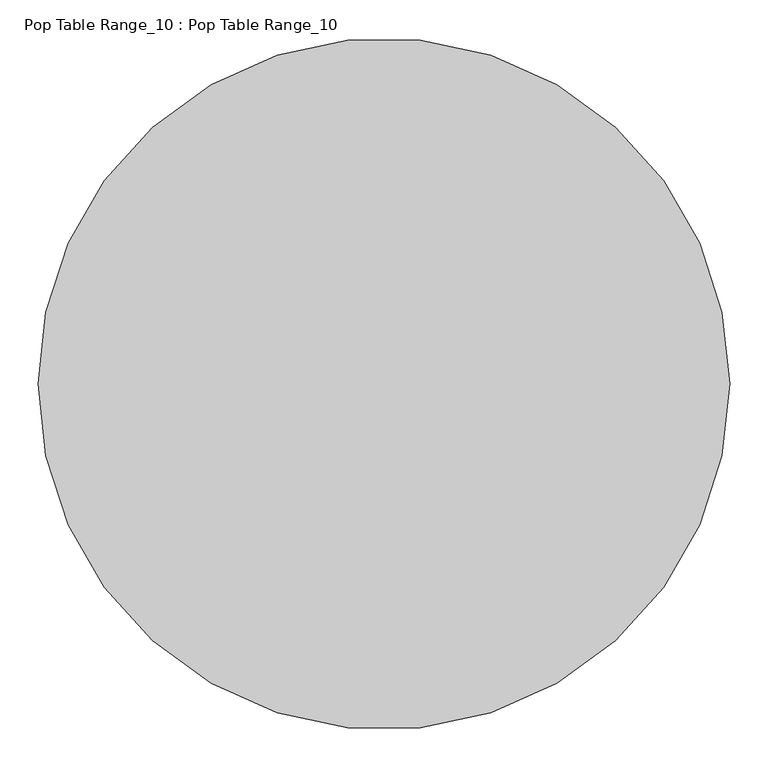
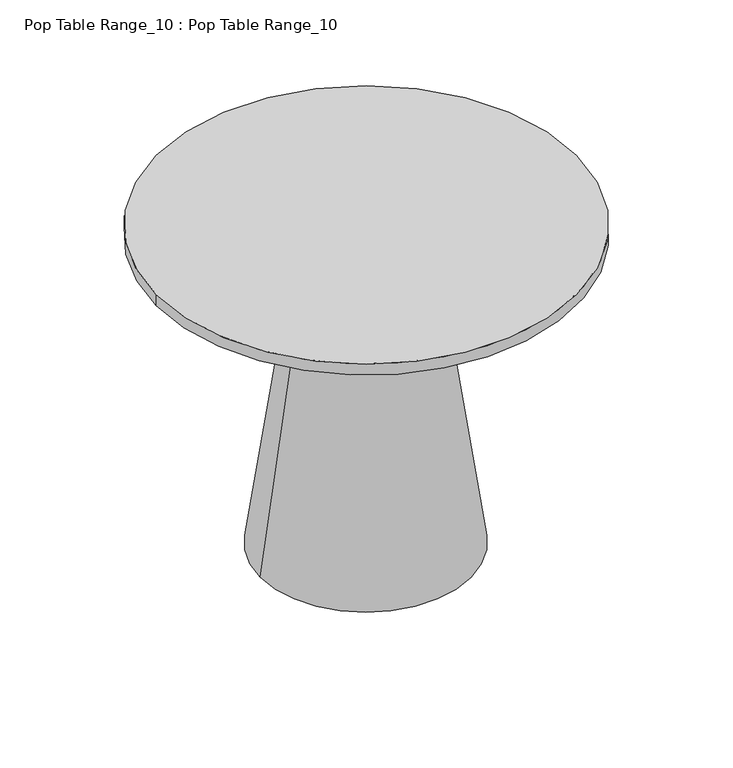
"""IFC4 building model written with IfcOpenShell, lengths in millimetres: proxy geometry, Pop Table Range_10 : Pop Table Range_10."""

import ifcopenshell
import ifcopenshell.guid

model = None  # the IFC model being written
_history = None  # IfcOwnerHistory: only IFC2X3 demands one
_inside = {}  # id of a spatial element -> (the spatial element, [elements in it])
_under = {}  # id of a project, library or spatial element -> (it, [spatial elements below it])
_declared = {}  # id of a project -> (the project, [libraries it declares])
_typed = {}  # id of a type object -> (the type object, [elements of that type])
_made_of = {}  # id of a material, layer set ... -> (it, [elements and type objects made of it])


def new_model(schema):
    """Start an empty IFC model of exactly this schema.

    Asked for "IFC4X3", IfcOpenShell would pick the latest addendum, in which some entities
    have other attributes; the version numbers below select the first issue.
    IFC2X3 requires an IfcOwnerHistory on every rooted entity: one is made here for all.
    """
    global model, _history
    if schema == "IFC4X3":
        model = ifcopenshell.file(schema_version=(4, 3, 0, 0))
    else:
        model = ifcopenshell.file(schema=schema)
    _inside.clear()
    _under.clear()
    _declared.clear()
    _typed.clear()
    _made_of.clear()
    _history = None
    if model.schema == "IFC2X3":
        org = make("IfcOrganization", Name="unknown")
        user = make(
            "IfcPersonAndOrganization",
            ThePerson=make("IfcPerson", FamilyName="unknown"),
            TheOrganization=org,
        )
        app = make(
            "IfcApplication",
            ApplicationDeveloper=org,
            Version="unknown",
            ApplicationFullName="unknown",
            ApplicationIdentifier="unknown",
        )
        _history = make(
            "IfcOwnerHistory",
            OwningUser=user,
            OwningApplication=app,
            ChangeAction="ADDED",
            CreationDate=0,
        )
    return model


def make(cls, **values):
    """One entity of the class cls with the attributes given. An attribute that is None is left unset."""
    return model.create_entity(
        cls, **{name: value for name, value in values.items() if value is not None}
    )


def rooted(cls, **values):
    """An entity with a GlobalId (a new one), such as an element, a storey or a relation."""
    return make(cls, GlobalId=ifcopenshell.guid.new(), OwnerHistory=_history, **values)


def si_unit(unit_type, name, prefix=None):
    """IfcSIUnit, for example si_unit("LENGTHUNIT", "METRE", prefix="MILLI")."""
    return make("IfcSIUnit", UnitType=unit_type, Prefix=prefix, Name=name)


def assignment(units):
    """IfcUnitAssignment: the units of a project."""
    return None if units is None else make("IfcUnitAssignment", Units=units)


def point(xyz):
    """IfcCartesianPoint."""
    return None if xyz is None else make("IfcCartesianPoint", Coordinates=xyz)


def direction(xyz):
    """IfcDirection."""
    return None if xyz is None else make("IfcDirection", DirectionRatios=xyz)


def frame(location, z_axis=None, x_axis=None):
    """IfcAxis2Placement3D, a coordinate frame: its origin and axes. An axis left out is left unset."""
    return make(
        "IfcAxis2Placement3D",
        Location=point(location),
        Axis=direction(z_axis),
        RefDirection=direction(x_axis),
    )


def frame_2d(location, x_axis=None):
    """IfcAxis2Placement2D, a coordinate frame in the plane: its origin and x axis."""
    return make(
        "IfcAxis2Placement2D", Location=point(location), RefDirection=direction(x_axis)
    )


def origin():
    """The frame at (0, 0, 0) with its axes left unset."""
    return frame((0.0, 0.0, 0.0))


def origin_2d():
    """The frame at (0, 0) in the plane with its x axis left unset."""
    return frame_2d((0.0, 0.0))


def place(relative_to, where):
    """IfcLocalPlacement: puts the frame where relative to a parent placement (None: the world)."""
    return make(
        "IfcLocalPlacement", PlacementRelTo=relative_to, RelativePlacement=where
    )


def context(
    kind, dimensions, precision=None, world=None, true_north=None, identifier=None
):
    """IfcGeometricRepresentationContext, for example the 3D "Model" context."""
    return make(
        "IfcGeometricRepresentationContext",
        ContextIdentifier=identifier,
        ContextType=kind,
        CoordinateSpaceDimension=dimensions,
        Precision=precision,
        WorldCoordinateSystem=world,
        TrueNorth=true_north,
    )


def project(units=None, contexts=None):
    """IfcProject with its units and contexts."""
    return rooted(
        "IfcProject",
        Name="project",
        RepresentationContexts=contexts,
        UnitsInContext=assignment(units),
    )


def spatial(cls, under=None, at=None, **own):
    """A site, building, storey or space (cls), placed at a placement, below another one or the project."""
    s = rooted(cls, ObjectPlacement=at, **own)
    if under is not None:
        _under.setdefault(under.id(), (under, []))[1].append(s)
    return s


def polyline(points):
    """IfcPolyline through the points."""
    return make("IfcPolyline", Points=[point(p) for p in points])


def circle_curve(where, radius):
    """IfcCircle in the frame where."""
    return make("IfcCircle", Position=where, Radius=radius)


def trimmed(basis, trim1, trim2, sense, master):
    """IfcTrimmedCurve: the piece of a basis curve between two trims."""
    return make(
        "IfcTrimmedCurve",
        BasisCurve=basis,
        Trim1=trim1,
        Trim2=trim2,
        SenseAgreement=sense,
        MasterRepresentation=master,
    )


def segment(curve, same_sense, transition):
    """IfcCompositeCurveSegment."""
    return make(
        "IfcCompositeCurveSegment",
        Transition=transition,
        SameSense=same_sense,
        ParentCurve=curve,
    )


def composite_curve(segments, self_intersect=None):
    """IfcCompositeCurve: segments joined end to end."""
    return make("IfcCompositeCurve", Segments=segments, SelfIntersect=self_intersect)


def outline(outer, holes=None, kind="AREA"):
    """IfcArbitraryClosedProfileDef: a profile drawn as a closed curve; with holes, ...WithVoids."""
    if holes is None:
        return make("IfcArbitraryClosedProfileDef", ProfileType=kind, OuterCurve=outer)
    return make(
        "IfcArbitraryProfileDefWithVoids",
        ProfileType=kind,
        OuterCurve=outer,
        InnerCurves=holes,
    )


def extrude(swept, where, along, depth):
    """IfcExtrudedAreaSolid: the profile swept, set in the frame where, extruded along a direction by depth."""
    return make(
        "IfcExtrudedAreaSolid",
        SweptArea=swept,
        Position=where,
        ExtrudedDirection=direction(along),
        Depth=depth,
    )


def shape(context_of_items, identifier, shape_type, items):
    """IfcShapeRepresentation: the items that make up one representation, for example the "Body"."""
    return make(
        "IfcShapeRepresentation",
        ContextOfItems=context_of_items,
        RepresentationIdentifier=identifier,
        RepresentationType=shape_type,
        Items=items,
    )


def source(mapping_origin, context_of_items, identifier, shape_type, items):
    """IfcRepresentationMap: a shape defined once, which mapped items show again and again."""
    return make(
        "IfcRepresentationMap",
        MappingOrigin=mapping_origin,
        MappedRepresentation=shape(context_of_items, identifier, shape_type, items),
    )


def transform(
    local_origin,
    x_axis=None,
    y_axis=None,
    z_axis=None,
    scale=None,
    scale2=None,
    scale3=None,
    uniform=True,
):
    """IfcCartesianTransformationOperator3D, or its non-uniform kind. x_axis, y_axis, z_axis: its Axis1, 2, 3."""
    if uniform:
        return make(
            "IfcCartesianTransformationOperator3D",
            Axis1=direction(x_axis),
            Axis2=direction(y_axis),
            LocalOrigin=point(local_origin),
            Scale=scale,
            Axis3=direction(z_axis),
        )
    return make(
        "IfcCartesianTransformationOperator3DnonUniform",
        Axis1=direction(x_axis),
        Axis2=direction(y_axis),
        LocalOrigin=point(local_origin),
        Scale=scale,
        Axis3=direction(z_axis),
        Scale2=scale2,
        Scale3=scale3,
    )


def mapped(mapping_source, mapping_target):
    """IfcMappedItem: shows the shape of a source again, moved by a transform."""
    return make(
        "IfcMappedItem", MappingSource=mapping_source, MappingTarget=mapping_target
    )


def made_of(thing, what):
    """Note that an element or type object is made of a material, layer set ...; save() writes the relation."""
    if what is not None:
        _made_of.setdefault(what.id(), (what, []))[1].append(thing)
    return thing


def element(
    cls,
    number,
    at=None,
    inside=None,
    cuts=None,
    type_object=None,
    material=None,
    context=None,
    identifier="Body",
    shape_type=None,
    held_by="IfcProductDefinitionShape",
    body=None,
    shapes=None,
    **own,
):
    """One element of the class cls, such as IfcWall. Its Tag is "e" and its number.

    at: its placement. inside: the storey or other place that contains it. cuts: it is an
    opening in that element (IfcRelVoidsElement). A single representation is given by context,
    identifier, shape_type and body (its items); several are given by shapes. held_by: the class
    of the entity that holds the representations. save() writes the other relations.
    """
    e = rooted(cls, Tag="e%d" % number, ObjectPlacement=at, **own)
    if body is not None:
        shapes = [shape(context, identifier, shape_type, body)]
    if shapes is not None:
        e.Representation = make(held_by, Representations=shapes)
    if inside is not None:
        _inside.setdefault(inside.id(), (inside, []))[1].append(e)
    if cuts is not None:
        rooted(
            "IfcRelVoidsElement", RelatingBuildingElement=cuts, RelatedOpeningElement=e
        )
    if type_object is not None:
        _typed.setdefault(type_object.id(), (type_object, []))[1].append(e)
    return made_of(e, material)


def aggregate(whole, parts):
    """IfcRelAggregates: a whole, such as a stair, and the parts it consists of."""
    return rooted("IfcRelAggregates", RelatingObject=whole, RelatedObjects=parts)


def save(model, path):
    """Write the relations noted so far, then the file.

    IfcRelAggregates (storeys below a building ...), IfcRelContainedInSpatialStructure (elements
    in a storey), IfcRelDefinesByType, IfcRelAssociatesMaterial and IfcRelDeclares: one each for
    every whole, place, type object, material and project.
    """
    for whole, parts in _under.values():
        aggregate(whole, parts)
    for where, things in _inside.values():
        rooted(
            "IfcRelContainedInSpatialStructure",
            RelatedElements=things,
            RelatingStructure=where,
        )
    for kind, things in _typed.values():
        rooted("IfcRelDefinesByType", RelatedObjects=things, RelatingType=kind)
    for what, things in _made_of.values():
        rooted("IfcRelAssociatesMaterial", RelatedObjects=things, RelatingMaterial=what)
    for by, libraries in _declared.values():
        rooted("IfcRelDeclares", RelatingContext=by, RelatedDefinitions=libraries)
    model.write(path)


def plane_surface(at):
    """IfcPlane: the flat surface through the origin of the frame at, square to its z axis."""
    return make("IfcPlane", Position=at)


def revolved_surface(curve, axis_point, axis_direction):
    """IfcSurfaceOfRevolution: the curve turned about the line through axis_point along axis_direction."""
    return make(
        "IfcSurfaceOfRevolution",
        SweptCurve=make("IfcArbitraryOpenProfileDef", ProfileType="CURVE", Curve=curve),
        AxisPosition=make("IfcAxis1Placement", Location=point(axis_point), Axis=direction(axis_direction)),
    )


def advanced_brep(points, edges, surfaces, faces):
    """IfcAdvancedBrep: a solid bounded by faces that lie on surfaces and meet in shared edges.

    An edge is (start, end): straight between two places in points (the first is 0);
    or (start, end, curve); or (start, end, curve, False) where it runs against its curve.
    A face is (place in surfaces, loops), or (place, loops, False) where it looks against
    its surface's normal. A loop lists edges by number (the first is 1), with a minus sign
    where the edge is run from its end to its start. The first loop is the outer one.
    """
    corners = [point(p) for p in points]
    vertices = [make("IfcVertexPoint", VertexGeometry=c) for c in corners]
    made = []
    for start, end, *more in edges:
        made.append(
            make(
                "IfcEdgeCurve",
                EdgeStart=vertices[start],
                EdgeEnd=vertices[end],
                EdgeGeometry=more[0] if more else make("IfcPolyline", Points=[corners[start], corners[end]]),
                SameSense=more[1] if len(more) > 1 else True,
            )
        )
    hull = []
    for where, loops, *sense in faces:
        bounds = []
        for j, loop in enumerate(loops):
            ring = [make("IfcOrientedEdge", EdgeElement=made[abs(k) - 1], Orientation=k > 0) for k in loop]
            bounds.append(
                make(
                    "IfcFaceOuterBound" if j == 0 else "IfcFaceBound",
                    Bound=make("IfcEdgeLoop", EdgeList=ring),
                    Orientation=True,
                )
            )
        hull.append(make("IfcAdvancedFace", Bounds=bounds, FaceSurface=surfaces[where], SameSense=sense[0] if sense else True))
    return make("IfcAdvancedBrep", Outer=make("IfcClosedShell", CfsFaces=hull))


def pop_table_range_10_pop_table_range_10_a40c9d29(model_context):
    return source(origin(), model_context, "Body", "SolidModel", [
        extrude(outline(composite_curve([segment(trimmed(circle_curve(origin_2d(), 450.0), [point((-450.0, 0.0))], [point((450.0, 0.0))], False, "CARTESIAN"), True, "CONTINUOUS"), segment(trimmed(circle_curve(origin_2d(), 450.0), [point((450.0, 0.0))], [point((-450.0, 0.0))], False, "CARTESIAN"), True, "CONTINUOUS")], self_intersect=False)), frame((0.0, 0.0, 695.0), z_axis=(0.0, 0.0, 1.0), x_axis=(1.0, 0.0, 0.0)), (0.0, 0.0, 1.0), 25.0),
        advanced_brep(
        [(200.6999726, 2.5, 0.0), (-200.6999726, 2.5, 0.0), (-100.6769714, 2.5, 695.0), (100.6769714, 2.5, 695.0), (125.7384435, 2.5, 695.0), (-125.7384435, 2.5, 695.0), (-225.7614448, 2.5, 0.0), (225.7614448, 2.5, 0.0)],
        [
            (0, 1, circle_curve(frame((0.0, 2.5, 0.0), z_axis=(0.0, 0.0, -1.0), x_axis=(-1.0, 0.0, 0.0)), 200.6999726)),
            (1, 2),
            (2, 3, circle_curve(frame((0.0, 2.5, 695.0), z_axis=(0.0, 0.0, 1.0), x_axis=(-1.0, 0.0, 0.0)), 100.6769714)),
            (3, 0),
            (4, 5, circle_curve(frame((0.0, 2.5, 695.0), z_axis=(0.0, 0.0, -1.0), x_axis=(-1.0, 0.0, 0.0)), 125.7384435)),
            (5, 6),
            (6, 7, circle_curve(frame((0.0, 2.5, 0.0), z_axis=(0.0, 0.0, 1.0), x_axis=(-1.0, 0.0, 0.0)), 225.7614448)),
            (7, 4),
            (1, 0, circle_curve(frame((0.0, 2.5, 0.0), z_axis=(0.0, 0.0, -1.0), x_axis=(1.0, 0.0, 0.0)), 200.6999726)),
            (3, 2, circle_curve(frame((0.0, 2.5, 695.0), z_axis=(0.0, 0.0, 1.0), x_axis=(1.0, 0.0, 0.0)), 100.6769714)),
            (6, 7, circle_curve(frame((0.0, 2.5, 0.0), z_axis=(0.0, 0.0, -1.0), x_axis=(1.0, 0.0, 0.0)), 225.7614448)),
            (5, 4, circle_curve(frame((0.0, 2.5, 695.0), z_axis=(0.0, 0.0, -1.0), x_axis=(1.0, 0.0, 0.0)), 125.7384435)),
        ],
        [
            revolved_surface(polyline([(-100.6769714, 2.5, 695.0), (-200.6999726, 2.5, 0.0)]), (0.0, 2.5, 0.0), (0.0, 0.0, 1.0)),
            revolved_surface(polyline([(-225.7614448, 2.5, 0.0), (-125.7384435, 2.5, 695.0)]), (0.0, 2.5, 0.0), (0.0, 0.0, 1.0)),
            revolved_surface(polyline([(100.6769714, 2.5, 695.0), (200.6999726, 2.5, 0.0)]), (0.0, 2.5, 0.0), (0.0, 0.0, 1.0)),
            plane_surface(frame((0.0, 2.5, 0.0), z_axis=(0.0, 0.0, -1.0), x_axis=(1.0, 0.0, 0.0))),
            revolved_surface(polyline([(225.7614448, 2.5, 0.0), (125.7384435, 2.5, 695.0)]), (0.0, 2.5, 0.0), (0.0, 0.0, 1.0)),
            plane_surface(frame((0.0, 2.5, 695.0), z_axis=(0.0, 0.0, 1.0), x_axis=(1.0, 0.0, 0.0))),
        ],
        [
            (0, [[1, 2, 3, 4]]),
            (1, [[5, 6, 7, 8]]),
            (2, [[9, -4, 10, -2]]),
            (3, [[11, -7], [-9, -1]]),
            (4, [[12, -8, -11, -6]]),
            (5, [[-12, -5], [-10, -3]]),
        ],
    ),
    ])


if __name__ == "__main__":
    model = new_model("IFC4")
    model_context = context("Model", 3, world=origin())
    ifc_project = project(units=[si_unit("LENGTHUNIT", "METRE", prefix="MILLI")], contexts=[model_context])
    site = spatial("IfcSite", under=ifc_project)
    building = spatial("IfcBuilding", under=site)
    placement = place(None, origin())
    pop_table_range_10_pop_table_range_10_shape = pop_table_range_10_pop_table_range_10_a40c9d29(model_context)
    element("IfcBuildingElementProxy", 1, Name="Pop Table Range_10 : Pop Table Range_10", ObjectType="Pop Table Range_10 : Pop Table Range_10", at=placement, inside=building, context=model_context, shape_type="MappedRepresentation", body=[
        mapped(pop_table_range_10_pop_table_range_10_shape, transform((0.0, 0.0, 0.0), x_axis=(1.0, 0.0, 0.0), y_axis=(0.0, 1.0, 0.0), z_axis=(0.0, 0.0, 1.0))),
    ])
    save(model, "model.ifc")
